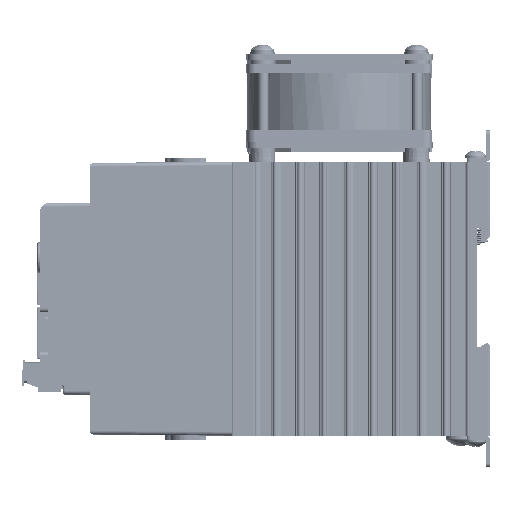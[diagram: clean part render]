
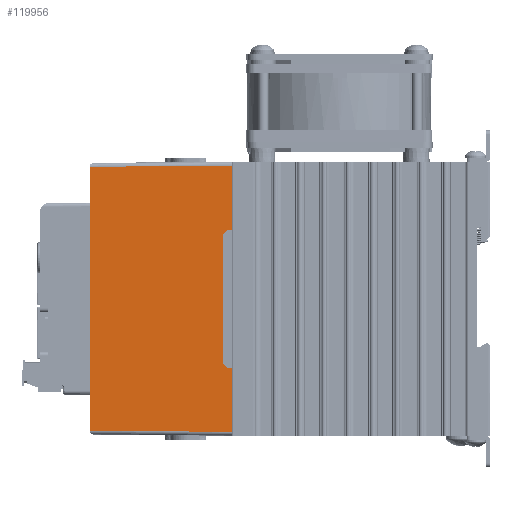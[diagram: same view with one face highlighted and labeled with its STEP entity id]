
A CAD part, left-side view. The second image highlights one B-rep face of the part: STEP entity #119956.
In plain terms, the highlighted planar face has unit normal (-1, 0.009, 0) as drawn and (1, 0, 0.009) by its records, which use the part's own axes.
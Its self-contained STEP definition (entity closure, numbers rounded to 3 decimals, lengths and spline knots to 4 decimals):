
#13337=FACE_OUTER_BOUND('',#19955,.T.);
#19955=EDGE_LOOP('',(#102875,#102876,#102877,#102878,#102879,#102880,#102881,
#102882,#102883,#102884));
#31719=LINE('',#205319,#44627);
#31849=LINE('',#206104,#44757);
#31855=LINE('',#206116,#44763);
#31859=LINE('',#206122,#44767);
#31861=LINE('',#206126,#44769);
#31863=LINE('',#206130,#44771);
#31864=LINE('',#206133,#44772);
#32209=LINE('',#206891,#45117);
#32211=LINE('',#206897,#45119);
#32212=LINE('',#206898,#45120);
#44627=VECTOR('',#155465,0.3937);
#44757=VECTOR('',#155841,0.3937);
#44763=VECTOR('',#155851,0.3937);
#44767=VECTOR('',#155859,0.3937);
#44769=VECTOR('',#155863,0.3937);
#44771=VECTOR('',#155867,0.3937);
#44772=VECTOR('',#155870,0.3937);
#45117=VECTOR('',#156595,0.3937);
#45119=VECTOR('',#156603,0.3937);
#45120=VECTOR('',#156604,0.3937);
#55812=VERTEX_POINT('',#205316);
#55813=VERTEX_POINT('',#205318);
#55916=VERTEX_POINT('',#206101);
#55917=VERTEX_POINT('',#206103);
#55920=VERTEX_POINT('',#206113);
#55921=VERTEX_POINT('',#206115);
#55922=VERTEX_POINT('',#206124);
#55923=VERTEX_POINT('',#206128);
#55924=VERTEX_POINT('',#206132);
#56124=VERTEX_POINT('',#206896);
#71591=EDGE_CURVE('',#55813,#55812,#31719,.T.);
#71779=EDGE_CURVE('',#55917,#55916,#31849,.T.);
#71785=EDGE_CURVE('',#55921,#55920,#31855,.T.);
#71789=EDGE_CURVE('',#55916,#55921,#31859,.T.);
#71791=EDGE_CURVE('',#55920,#55922,#31861,.T.);
#71793=EDGE_CURVE('',#55922,#55923,#31863,.T.);
#71794=EDGE_CURVE('',#55924,#55917,#31864,.T.);
#72160=EDGE_CURVE('',#55924,#55812,#32209,.T.);
#72163=EDGE_CURVE('',#55923,#56124,#32211,.T.);
#72164=EDGE_CURVE('',#55813,#56124,#32212,.T.);
#102875=ORIENTED_EDGE('',*,*,#71793,.T.);
#102876=ORIENTED_EDGE('',*,*,#72163,.T.);
#102877=ORIENTED_EDGE('',*,*,#72164,.F.);
#102878=ORIENTED_EDGE('',*,*,#71591,.T.);
#102879=ORIENTED_EDGE('',*,*,#72160,.F.);
#102880=ORIENTED_EDGE('',*,*,#71794,.T.);
#102881=ORIENTED_EDGE('',*,*,#71779,.T.);
#102882=ORIENTED_EDGE('',*,*,#71789,.T.);
#102883=ORIENTED_EDGE('',*,*,#71785,.T.);
#102884=ORIENTED_EDGE('',*,*,#71791,.T.);
#114361=PLANE('',#129053);
#119956=ADVANCED_FACE('',(#13337),#114361,.T.);
#129053=AXIS2_PLACEMENT_3D('',#206895,#156601,#156602);
#155465=DIRECTION('',(0.,-1.,0.));
#155841=DIRECTION('',(-0.009,0.009,1.));
#155851=DIRECTION('',(0.,1.,0.));
#155859=DIRECTION('',(-0.006,0.71,0.704));
#155863=DIRECTION('',(0.006,0.71,-0.704));
#155867=DIRECTION('',(0.009,0.009,-1.));
#155870=DIRECTION('',(0.,1.,0.));
#156595=DIRECTION('',(-0.009,0.009,1.));
#156601=DIRECTION('center_axis',(1.,0.,
0.009));
#156602=DIRECTION('ref_axis',(0.,1.,0.));
#156603=DIRECTION('',(0.,1.,0.));
#156604=DIRECTION('',(0.009,0.009,-1.));
#205316=CARTESIAN_POINT('',(1.3842,0.0658,1.811));
#205318=CARTESIAN_POINT('',(1.3842,3.4342,1.811));
#205319=CARTESIAN_POINT('',(1.3842,0.,1.811));
#206101=CARTESIAN_POINT('',(1.3995,0.8705,0.0521));
#206103=CARTESIAN_POINT('',(1.4,0.87,0.));
#206104=CARTESIAN_POINT('',(1.3996,0.8704,0.0436));
#206113=CARTESIAN_POINT('',(1.3991,2.5762,0.105));
#206115=CARTESIAN_POINT('',(1.3991,0.9238,0.105));
#206116=CARTESIAN_POINT('',(1.3991,3.0381,0.105));
#206122=CARTESIAN_POINT('',(1.3937,1.5503,0.726));
#206124=CARTESIAN_POINT('',(1.3995,2.6295,0.0521));
#206126=CARTESIAN_POINT('',(1.4015,2.859,-0.1754));
#206128=CARTESIAN_POINT('',(1.4,2.63,0.));
#206130=CARTESIAN_POINT('',(1.4,2.63,0.0023));
#206132=CARTESIAN_POINT('',(1.4,0.05,0.));
#206133=CARTESIAN_POINT('',(1.4,0.,0.));
#206891=CARTESIAN_POINT('',(1.3999,0.0501,0.0148));
#206895=CARTESIAN_POINT('Origin',(1.4,3.5,0.));
#206896=CARTESIAN_POINT('',(1.4,3.45,0.));
#206897=CARTESIAN_POINT('',(1.4,0.,0.));
#206898=CARTESIAN_POINT('',(1.4,3.45,0.0057));
